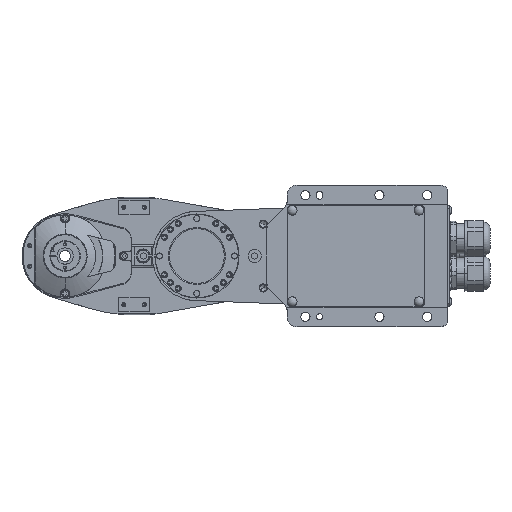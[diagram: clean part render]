
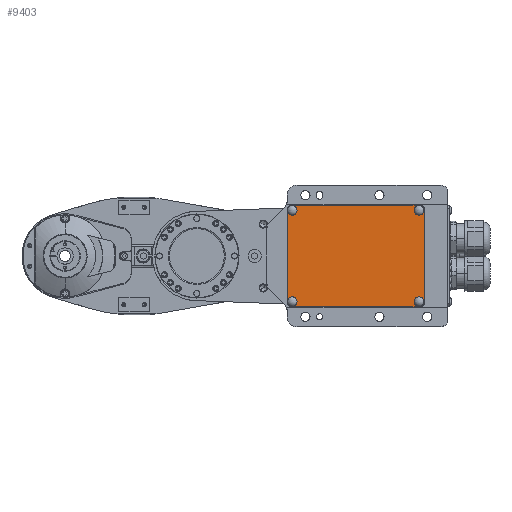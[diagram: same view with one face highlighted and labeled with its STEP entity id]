
A CAD part, front view. The second image highlights one B-rep face of the part: STEP entity #9403.
In plain terms, the highlighted planar face has unit normal (0, -1, 0).
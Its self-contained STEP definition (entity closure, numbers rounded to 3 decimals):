
#9403 = ADVANCED_FACE( '', ( #27743, #27744, #27745, #27746, #27747 ), #27748, .F. );
#10585 = EDGE_CURVE( '', #12539, #19813, #29099, .T. );
#10757 = EDGE_CURVE( '', #19813, #12539, #29288, .T. );
#10943 = VERTEX_POINT( '', #29487 );
#11241 = EDGE_CURVE( '', #21051, #17689, #29814, .T. );
#12539 = VERTEX_POINT( '', #31254 );
#13501 = EDGE_CURVE( '', #17689, #21051, #32319, .T. );
#13731 = VERTEX_POINT( '', #32579 );
#14441 = EDGE_CURVE( '', #24743, #22535, #33371, .T. );
#16627 = EDGE_CURVE( '', #10943, #26157, #35797, .T. );
#17689 = VERTEX_POINT( '', #36960 );
#17743 = VERTEX_POINT( '', #37018 );
#17867 = EDGE_CURVE( '', #23115, #17743, #37154, .T. );
#19223 = VERTEX_POINT( '', #38642 );
#19623 = EDGE_CURVE( '', #13731, #23821, #39087, .T. );
#19813 = VERTEX_POINT( '', #39315 );
#20663 = EDGE_CURVE( '', #26455, #21903, #40250, .T. );
#20933 = VERTEX_POINT( '', #40546 );
#21051 = VERTEX_POINT( '', #40678 );
#21903 = VERTEX_POINT( '', #41640 );
#22535 = VERTEX_POINT( '', #42346 );
#23115 = VERTEX_POINT( '', #43013 );
#23821 = VERTEX_POINT( '', #43796 );
#24743 = VERTEX_POINT( '', #44842 );
#24993 = EDGE_CURVE( '', #26157, #23115, #45133, .T. );
#25331 = EDGE_CURVE( '', #17743, #26455, #45531, .T. );
#25367 = EDGE_CURVE( '', #22535, #24743, #45571, .T. );
#25819 = EDGE_CURVE( '', #21903, #19223, #46080, .T. );
#25841 = EDGE_CURVE( '', #19223, #20933, #46107, .T. );
#26157 = VERTEX_POINT( '', #46471 );
#26455 = VERTEX_POINT( '', #46802 );
#27127 = EDGE_CURVE( '', #20933, #10943, #47544, .T. );
#27213 = EDGE_CURVE( '', #23821, #13731, #47638, .T. );
#27743 = FACE_BOUND( '', #48300, .T. );
#27744 = FACE_BOUND( '', #48301, .T. );
#27745 = FACE_BOUND( '', #48302, .T. );
#27746 = FACE_BOUND( '', #48303, .T. );
#27747 = FACE_OUTER_BOUND( '', #48304, .T. );
#27748 = PLANE( '', #48305 );
#29099 = CIRCLE( '', #50158, 4.701 );
#29288 = CIRCLE( '', #50412, 4.701 );
#29487 = CARTESIAN_POINT( '', ( -29., 4., 50. ) );
#29814 = CIRCLE( '', #51204, 4.701 );
#31254 = CARTESIAN_POINT( '', ( 99., 4., 49.701 ) );
#32319 = CIRCLE( '', #54845, 4.701 );
#32579 = CARTESIAN_POINT( '', ( -26., 4., -40.299 ) );
#33371 = CIRCLE( '', #56332, 4.701 );
#35797 = LINE( '', #59795, #59796 );
#36960 = CARTESIAN_POINT( '', ( -26., 4., 40.299 ) );
#37018 = CARTESIAN_POINT( '', ( 104., 4., -48. ) );
#37154 = LINE( '', #61760, #61761 );
#38642 = CARTESIAN_POINT( '', ( -31., 4., -48. ) );
#39087 = CIRCLE( '', #64513, 4.701 );
#39315 = CARTESIAN_POINT( '', ( 99., 4., 40.299 ) );
#40250 = LINE( '', #66167, #66168 );
#40546 = CARTESIAN_POINT( '', ( -31., 4., 48. ) );
#40678 = CARTESIAN_POINT( '', ( -26., 4., 49.701 ) );
#41640 = CARTESIAN_POINT( '', ( -29., 4., -50. ) );
#42346 = CARTESIAN_POINT( '', ( 99., 4., -49.701 ) );
#43013 = CARTESIAN_POINT( '', ( 104., 4., 48. ) );
#43796 = CARTESIAN_POINT( '', ( -26., 4., -49.701 ) );
#44842 = CARTESIAN_POINT( '', ( 99., 4., -40.299 ) );
#45133 = LINE( '', #73290, #73291 );
#45531 = LINE( '', #73868, #73869 );
#45571 = CIRCLE( '', #73923, 4.701 );
#46080 = LINE( '', #74616, #74617 );
#46107 = LINE( '', #74647, #74648 );
#46471 = CARTESIAN_POINT( '', ( 102., 4., 50. ) );
#46802 = CARTESIAN_POINT( '', ( 102., 4., -50. ) );
#47544 = LINE( '', #76768, #76769 );
#47638 = CIRCLE( '', #76902, 4.701 );
#48300 = EDGE_LOOP( '', ( #77565, #77566 ) );
#48301 = EDGE_LOOP( '', ( #77567, #77568 ) );
#48302 = EDGE_LOOP( '', ( #77569, #77570 ) );
#48303 = EDGE_LOOP( '', ( #77571, #77572 ) );
#48304 = EDGE_LOOP( '', ( #77573, #77574, #77575, #77576, #77577, #77578, #77579, #77580 ) );
#48305 = AXIS2_PLACEMENT_3D( '', #77581, #77582, #77583 );
#50158 = AXIS2_PLACEMENT_3D( '', #79294, #79295, #79296 );
#50412 = AXIS2_PLACEMENT_3D( '', #79502, #79503, #79504 );
#51204 = AXIS2_PLACEMENT_3D( '', #80064, #80065, #80066 );
#54845 = AXIS2_PLACEMENT_3D( '', #83051, #83052, #83053 );
#56332 = AXIS2_PLACEMENT_3D( '', #84411, #84412, #84413 );
#59795 = CARTESIAN_POINT( '', ( -29., 4., 50. ) );
#59796 = VECTOR( '', #87304, 1. );
#61760 = CARTESIAN_POINT( '', ( 104., 4., 48. ) );
#61761 = VECTOR( '', #88774, 1. );
#64513 = AXIS2_PLACEMENT_3D( '', #90934, #90935, #90936 );
#66167 = CARTESIAN_POINT( '', ( 102., 4., -50. ) );
#66168 = VECTOR( '', #92247, 1. );
#73290 = CARTESIAN_POINT( '', ( 102., 4., 50. ) );
#73291 = VECTOR( '', #98127, 1. );
#73868 = CARTESIAN_POINT( '', ( 104., 4., -48. ) );
#73869 = VECTOR( '', #98633, 1. );
#73923 = AXIS2_PLACEMENT_3D( '', #98687, #98688, #98689 );
#74616 = CARTESIAN_POINT( '', ( -29., 4., -50. ) );
#74617 = VECTOR( '', #99316, 1. );
#74647 = CARTESIAN_POINT( '', ( -31., 4., -48. ) );
#74648 = VECTOR( '', #99358, 1. );
#76768 = CARTESIAN_POINT( '', ( -31., 4., 48. ) );
#76769 = VECTOR( '', #101050, 1. );
#76902 = AXIS2_PLACEMENT_3D( '', #101151, #101152, #101153 );
#77565 = ORIENTED_EDGE( '', *, *, #27213, .T. );
#77566 = ORIENTED_EDGE( '', *, *, #19623, .T. );
#77567 = ORIENTED_EDGE( '', *, *, #25367, .T. );
#77568 = ORIENTED_EDGE( '', *, *, #14441, .T. );
#77569 = ORIENTED_EDGE( '', *, *, #10757, .T. );
#77570 = ORIENTED_EDGE( '', *, *, #10585, .T. );
#77571 = ORIENTED_EDGE( '', *, *, #13501, .T. );
#77572 = ORIENTED_EDGE( '', *, *, #11241, .T. );
#77573 = ORIENTED_EDGE( '', *, *, #27127, .F. );
#77574 = ORIENTED_EDGE( '', *, *, #25841, .F. );
#77575 = ORIENTED_EDGE( '', *, *, #25819, .F. );
#77576 = ORIENTED_EDGE( '', *, *, #20663, .F. );
#77577 = ORIENTED_EDGE( '', *, *, #25331, .F. );
#77578 = ORIENTED_EDGE( '', *, *, #17867, .F. );
#77579 = ORIENTED_EDGE( '', *, *, #24993, .F. );
#77580 = ORIENTED_EDGE( '', *, *, #16627, .F. );
#77581 = CARTESIAN_POINT( '', ( 0., 4., 0. ) );
#77582 = DIRECTION( '', ( 0., 1., 0. ) );
#77583 = DIRECTION( '', ( 0., 0., 1. ) );
#79294 = CARTESIAN_POINT( '', ( 99., 4., 45. ) );
#79295 = DIRECTION( '', ( 0., 1., 0. ) );
#79296 = DIRECTION( '', ( 0., 0., 1. ) );
#79502 = CARTESIAN_POINT( '', ( 99., 4., 45. ) );
#79503 = DIRECTION( '', ( 0., 1., 0. ) );
#79504 = DIRECTION( '', ( 0., 0., 1. ) );
#80064 = CARTESIAN_POINT( '', ( -26., 4., 45. ) );
#80065 = DIRECTION( '', ( 0., 1., 0. ) );
#80066 = DIRECTION( '', ( 0., 0., 1. ) );
#83051 = CARTESIAN_POINT( '', ( -26., 4., 45. ) );
#83052 = DIRECTION( '', ( 0., 1., 0. ) );
#83053 = DIRECTION( '', ( 0., 0., 1. ) );
#84411 = CARTESIAN_POINT( '', ( 99., 4., -45. ) );
#84412 = DIRECTION( '', ( 0., 1., 0. ) );
#84413 = DIRECTION( '', ( 0., 0., 1. ) );
#87304 = DIRECTION( '', ( 1., 0., 0. ) );
#88774 = DIRECTION( '', ( 0., 0., -1. ) );
#90934 = CARTESIAN_POINT( '', ( -26., 4., -45. ) );
#90935 = DIRECTION( '', ( 0., 1., 0. ) );
#90936 = DIRECTION( '', ( 0., 0., 1. ) );
#92247 = DIRECTION( '', ( -1., 0., 0. ) );
#98127 = DIRECTION( '', ( 0.707, 0., -0.707 ) );
#98633 = DIRECTION( '', ( -0.707, 0., -0.707 ) );
#98687 = CARTESIAN_POINT( '', ( 99., 4., -45. ) );
#98688 = DIRECTION( '', ( 0., 1., 0. ) );
#98689 = DIRECTION( '', ( 0., 0., 1. ) );
#99316 = DIRECTION( '', ( -0.707, 0., 0.707 ) );
#99358 = DIRECTION( '', ( 0., 0., 1. ) );
#101050 = DIRECTION( '', ( 0.707, 0., 0.707 ) );
#101151 = CARTESIAN_POINT( '', ( -26., 4., -45. ) );
#101152 = DIRECTION( '', ( 0., 1., 0. ) );
#101153 = DIRECTION( '', ( 0., 0., 1. ) );
